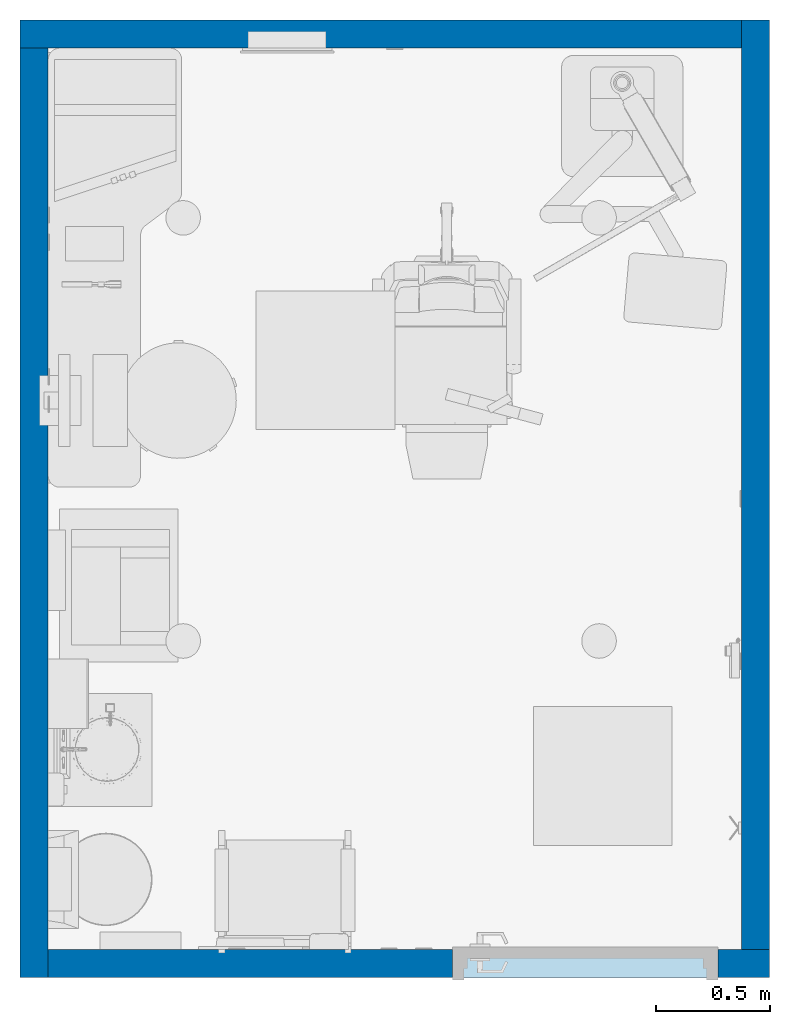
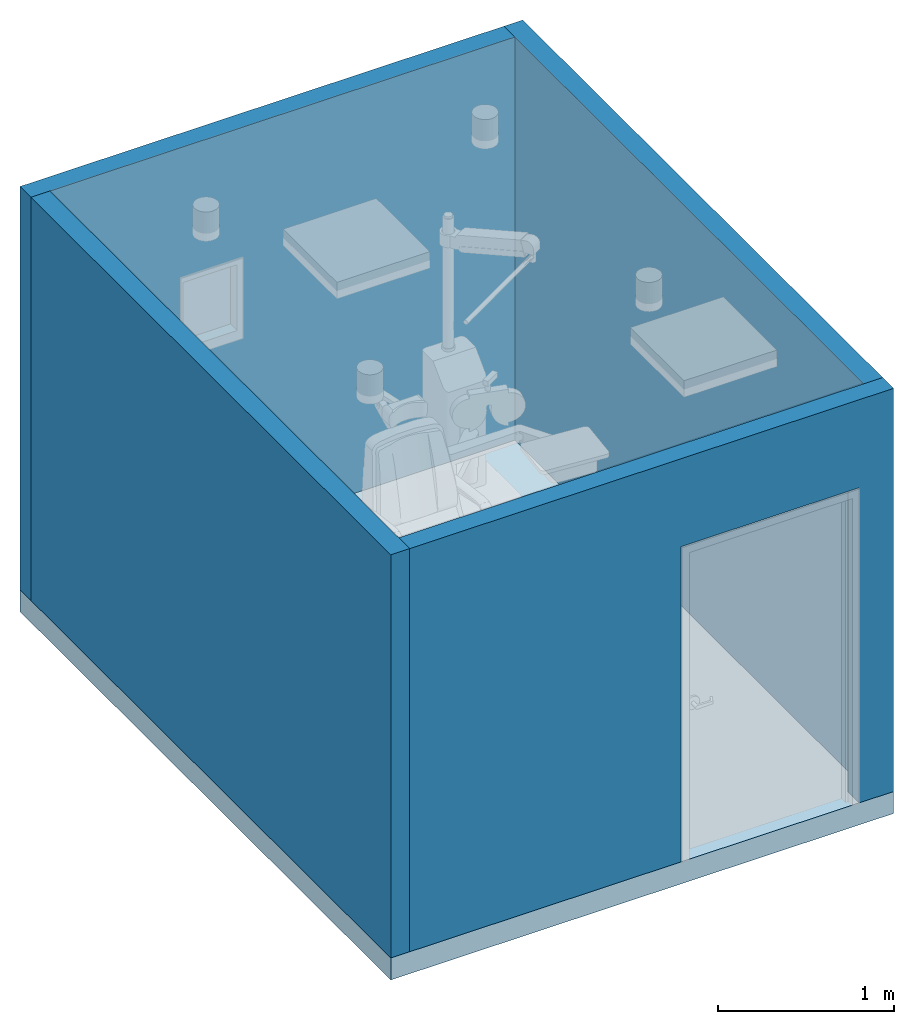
# One storey, part 1 of 11: 4 walls, 1 slab, 2 openings.
"""IFC2X3 building model written with IfcOpenShell, lengths in feet."""

from ifc_helpers import new_model, entity, si_unit, converted_unit, derived_unit, direction, frame, frame_2d, origin, place, context, subcontext, project, spatial, rectangle, extrude, material, layer, layer_set, layer_usage, type_object, element, save


model = new_model("IFC2X3")

# Units and contexts
model_context = context("Model", 3, precision=0.0001, world=origin(), true_north=direction((6.12303176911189e-17, 1.0)))
body_context = subcontext(model_context, "Body", "Model", "MODEL_VIEW")
ifc_project = project(units=[converted_unit("LENGTHUNIT", "FOOT", entity("IfcRatioMeasure", 0.3048), si_unit("LENGTHUNIT", "METRE"), dimensions=[1, 0, 0, 0, 0, 0, 0]), converted_unit("AREAUNIT", "SQUARE FOOT", entity("IfcRatioMeasure", 0.09290304), si_unit("AREAUNIT", "SQUARE_METRE"), dimensions=[2, 0, 0, 0, 0, 0, 0]), converted_unit("VOLUMEUNIT", "CUBIC FOOT", entity("IfcRatioMeasure", 0.028316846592), si_unit("VOLUMEUNIT", "CUBIC_METRE"), dimensions=[3, 0, 0, 0, 0, 0, 0]), converted_unit("PLANEANGLEUNIT", "DEGREE", entity("IfcRatioMeasure", 0.0174532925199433), si_unit("PLANEANGLEUNIT", "RADIAN"), dimensions=[0, 0, 0, 0, 0, 0, 0]), si_unit("MASSUNIT", "GRAM", prefix="KILO"), derived_unit("MASSDENSITYUNIT", [(si_unit("MASSUNIT", "GRAM", prefix="KILO"), 1), (si_unit("LENGTHUNIT", "METRE"), -3)]), si_unit("TIMEUNIT", "SECOND"), si_unit("FREQUENCYUNIT", "HERTZ"), si_unit("THERMODYNAMICTEMPERATUREUNIT", "DEGREE_CELSIUS"), derived_unit("THERMALTRANSMITTANCEUNIT", [(si_unit("MASSUNIT", "GRAM", prefix="KILO"), 1), (si_unit("THERMODYNAMICTEMPERATUREUNIT", "KELVIN"), -1), (si_unit("TIMEUNIT", "SECOND"), -3)]), derived_unit("VOLUMETRICFLOWRATEUNIT", [(si_unit("LENGTHUNIT", "METRE"), 3), (si_unit("TIMEUNIT", "SECOND"), -1)]), si_unit("ELECTRICCURRENTUNIT", "AMPERE"), si_unit("ELECTRICVOLTAGEUNIT", "VOLT"), si_unit("POWERUNIT", "WATT"), si_unit("FORCEUNIT", "NEWTON"), si_unit("ILLUMINANCEUNIT", "LUX"), si_unit("LUMINOUSFLUXUNIT", "LUMEN"), si_unit("LUMINOUSINTENSITYUNIT", "CANDELA"), derived_unit("USERDEFINED", [(si_unit("MASSUNIT", "GRAM", prefix="KILO"), -1), (si_unit("LENGTHUNIT", "METRE"), -2), (si_unit("TIMEUNIT", "SECOND"), 3), (si_unit("LUMINOUSFLUXUNIT", "LUMEN"), 1)]), derived_unit("LINEARVELOCITYUNIT", [(si_unit("LENGTHUNIT", "METRE"), 1), (si_unit("TIMEUNIT", "SECOND"), -1)]), si_unit("PRESSUREUNIT", "PASCAL"), derived_unit("USERDEFINED", [(si_unit("LENGTHUNIT", "METRE"), -2), (si_unit("MASSUNIT", "GRAM", prefix="KILO"), 1), (si_unit("TIMEUNIT", "SECOND"), -2)])], contexts=[model_context])

# Site, building, storey
site_placement = place(None, origin())
site = spatial("IfcSite", under=ifc_project, at=site_placement, Name="Default", CompositionType="ELEMENT")
building_placement = place(site_placement, origin())
building = spatial("IfcBuilding", under=site, at=building_placement, Name="EYE CLINIC:  OPTHALMOLOGY AND OPTOMETRY SERVICES (Ch. 233)", CompositionType="ELEMENT")
storey_placement = place(building_placement, origin())
storey = spatial("IfcBuildingStorey", under=building, at=storey_placement, Name="DATUM", CompositionType="ELEMENT", Elevation=0.0)

# Slab
ifc_material_1 = material(Name="Default Floor")
ifc_layer_1 = layer(ifc_material_1, 0.5)
ifc_layer_set_1 = layer_set([ifc_layer_1], Name="Floor:Generic - 6\"")
ifc_layer_usage_1 = layer_usage(ifc_layer_set_1, "AXIS3", "POSITIVE", 0.0)
slab_placement = place(storey_placement, origin())
element("IfcSlab", 1, at=slab_placement, inside=storey, material=ifc_layer_usage_1, Name="Floor:Generic - 6\"", ObjectType="Floor:Generic - 6\"", PredefinedType="FLOOR", context=body_context, shape_type="SweptSolid", body=[
    extrude(rectangle(XDim=13.8125, YDim=10.8125, at=frame_2d((0.0, -3.5527136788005e-15), x_axis=(1.0, 0.0))), frame((-30.8602308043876, 5.30762568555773, 0.0), z_axis=(0.0, 0.0, -1.0), x_axis=(0.0, 1.0, 0.0)), (0.0, 0.0, 1.0), 0.5),
])

# Wall, opening
ifc_material_2 = material(Name="Default Wall")
ifc_layer_2 = layer(ifc_material_2, 0.40625)
ifc_layer_set_2 = layer_set([ifc_layer_2], Name="Basic Wall:Interior - 4 7/8\"")
ifc_layer_usage_2 = layer_usage(ifc_layer_set_2, "AXIS2", "NEGATIVE", 0.203125)
wall_type = type_object("IfcWallType", Name="Basic Wall:Interior - 4 7/8\"", PredefinedType="STANDARD", material=ifc_layer_set_2)
wall_1_placement = place(storey_placement, frame((-36.2664808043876, 12.0107506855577, 0.0)))
wall_1 = element("IfcWallStandardCase", 2, at=wall_1_placement, inside=storey, type_object=wall_type, material=ifc_layer_usage_2, Name="Basic Wall:Interior - 4 7/8\"", ObjectType="Basic Wall:Interior - 4 7/8\"", context=body_context, shape_type="SweptSolid", body=[
    extrude(rectangle(XDim=10.40625, YDim=0.40625, at=frame_2d((5.203125, -8.18789480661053e-16), x_axis=(-1.0, 0.0))), origin(), (0.0, 0.0, 1.0), 9.16666666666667),
])
opening_1_placement = place(wall_1_placement, origin())
element("IfcOpeningElement", 3, at=opening_1_placement, cuts=wall_1, Name="Basic Wall:Interior - 4 7/8\"", ObjectType="Recess", context=body_context, shape_type="SweptSolid", body=[
    extrude(rectangle(XDim=1.5, YDim=1.16666666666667, at=frame_2d((0.0, 1.77635683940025e-15), x_axis=(1.0, 0.0))), frame((3.85416666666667, -0.203124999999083, 5.33333333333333), z_axis=(0.0, 1.0, 0.0), x_axis=(0.0, 0.0, -1.0)), (0.0, 0.0, 1.0), 0.250000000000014),
])

# Wall
ifc_layer_usage_3 = layer_usage(ifc_layer_set_2, "AXIS2", "POSITIVE", -0.203125)
wall_2_placement = place(storey_placement, frame((-36.0633558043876, 11.8076256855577, 0.0), z_axis=(0.0, 0.0, 1.0), x_axis=(0.0, -1.0, 0.0)))
element("IfcWallStandardCase", 4, at=wall_2_placement, inside=storey, type_object=wall_type, material=ifc_layer_usage_3, Name="Basic Wall:Interior - 4 7/8\"", ObjectType="Basic Wall:Interior - 4 7/8\"", context=body_context, shape_type="SweptSolid", body=[
    extrude(rectangle(XDim=13.40625, YDim=0.40625, at=frame_2d((6.703125, 5.55111512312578e-17), x_axis=(-1.0, 0.0))), origin(), (0.0, 0.0, 1.0), 9.16666666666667),
])

# Wall, opening
ifc_layer_usage_4 = layer_usage(ifc_layer_set_2, "AXIS2", "NEGATIVE", 0.203125)
wall_3_placement = place(storey_placement, frame((-25.4539808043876, -1.39549931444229, 0.0), z_axis=(0.0, 0.0, 1.0), x_axis=(-1.0, 0.0, 0.0)))
wall_3 = element("IfcWallStandardCase", 5, at=wall_3_placement, inside=storey, type_object=wall_type, material=ifc_layer_usage_4, Name="Basic Wall:Interior - 4 7/8\"", ObjectType="Basic Wall:Interior - 4 7/8\"", context=body_context, shape_type="SweptSolid", body=[
    extrude(rectangle(XDim=10.40625, YDim=0.40625, at=frame_2d((5.203125, 1.38777878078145e-17), x_axis=(-1.0, 0.0))), origin(), (0.0, 0.0, 1.0), 9.16666666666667),
])
opening_2_placement = place(wall_3_placement, frame((4.57291666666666, 0.203124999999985, 0.0)))
element("IfcOpeningElement", 6, at=opening_2_placement, cuts=wall_3, Name="Single - Flush:42\" x 84\":1", ObjectType="Opening", context=body_context, shape_type="SweptSolid", body=[
    extrude(rectangle(XDim=3.83333333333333, YDim=7.16666666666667, at=frame_2d((3.58333333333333, 1.91666666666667), x_axis=(0.0, 1.0))), frame((0.0, 0.0, 0.0), z_axis=(0.0, -1.0, 0.0), x_axis=(0.0, 0.0, 1.0)), (0.0, 0.0, 1.0), 0.40625),
])

# Wall
ifc_layer_usage_5 = layer_usage(ifc_layer_set_2, "AXIS2", "NEGATIVE", 0.203125)
wall_4_placement = place(storey_placement, frame((-25.6571058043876, 12.2138756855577, 0.0), z_axis=(0.0, 0.0, 1.0), x_axis=(0.0, -1.0, 0.0)))
element("IfcWallStandardCase", 7, at=wall_4_placement, inside=storey, type_object=wall_type, material=ifc_layer_usage_5, Name="Basic Wall:Interior - 4 7/8\"", ObjectType="Basic Wall:Interior - 4 7/8\"", context=body_context, shape_type="SweptSolid", body=[
    extrude(rectangle(XDim=13.40625, YDim=0.40625, at=frame_2d((6.703125, 5.55111512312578e-17), x_axis=(-1.0, 0.0))), origin(), (0.0, 0.0, 1.0), 9.16666666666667),
])

save(model, "model.ifc")
